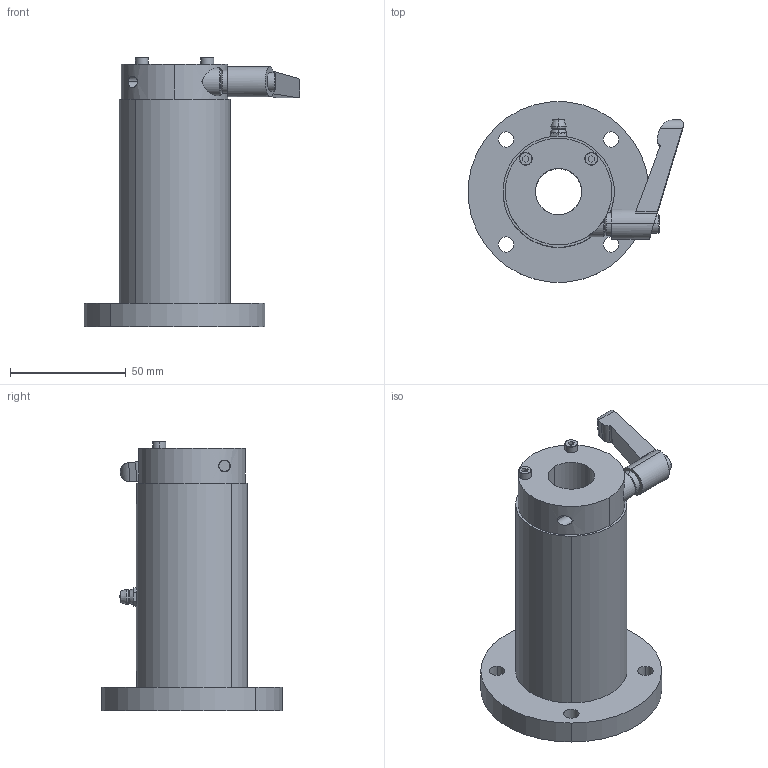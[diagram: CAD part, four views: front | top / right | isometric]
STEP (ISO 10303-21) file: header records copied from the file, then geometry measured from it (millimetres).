
FILE_DESCRIPTION (( 'STEP AP214' ), '1' );
FILE_NAME ('LFW20-OH-CS.STEP', '2023-06-27T02:04:54', ( '' ), ( '' ), 'SwSTEP 2.0', 'SolidWorks 2019', '' );
FILE_SCHEMA (( 'AUTOMOTIVE_DESIGN' ));
Length unit declared in the file: millimetre
Products named in the file (3): LFW20-OH-CS; “ÁSCK2015SS-S3.4; LFW20-OH
Assembly tree (2 placements, depth 2):
  LFW20-OH-CS
    LFW20-OH
    “ÁSCK2015SS-S3.4
Bounding box: 92.75 x 77.7 x 116 mm (x, y, z)
Volume: 197430.1 mm3; surface area: 46706.5 mm2
Topology: 3 solids, 9 shells, 224 faces, 542 edges, 343 vertices
Faces by surface type: cylinder 80, plane 65, bspline 47, cone 20, torus 8, sphere 4
Entity records: 9773 total; most frequent: CARTESIAN_POINT 2232, DIRECTION 1124, ORIENTED_EDGE 1080, EDGE_CURVE 540, AXIS2_PLACEMENT_3D 468, VERTEX_POINT 342, CIRCLE 286, EDGE_LOOP 272
